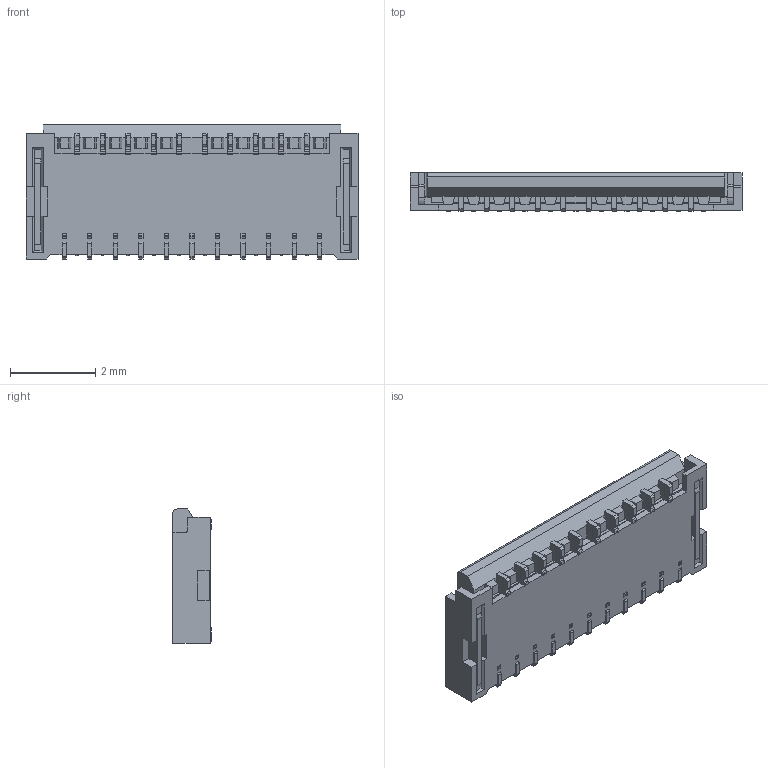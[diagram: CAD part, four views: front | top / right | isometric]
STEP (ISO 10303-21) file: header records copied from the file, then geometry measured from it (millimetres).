
FILE_DESCRIPTION (( 'STEP AP203' ), '1' );
FILE_NAME ('20613-021E-02C MINIFLEX 3-BFNH ACT CLOSE STEP R6 ALL.STEP', '2024-09-12T08:38:16', ( '' ), ( '' ), 'SwSTEP 2.0', 'SolidWorks 2023', '' );
FILE_SCHEMA (( 'CONFIG_CONTROL_DESIGN' ));
Length unit declared in the file: millimetre
Products named in the file (1): 20613-021E-02C MINIFLEX 3-BFNH ACT CLOSE STEP R6 ALL
Bounding box: 7.8 x 0.9 x 3.15 mm (x, y, z)
Volume: 18.5 mm3; surface area: 84.5 mm2
Topology: 1 solids, 1 shells, 764 faces, 2187 edges, 1442 vertices
Faces by surface type: plane 638, cylinder 126
Entity records: 24664 total; most frequent: CARTESIAN_POINT 4634, ORIENTED_EDGE 4374, DIRECTION 3869, EDGE_CURVE 2187, VECTOR 1875, LINE 1875, VERTEX_POINT 1442, AXIS2_PLACEMENT_3D 997
